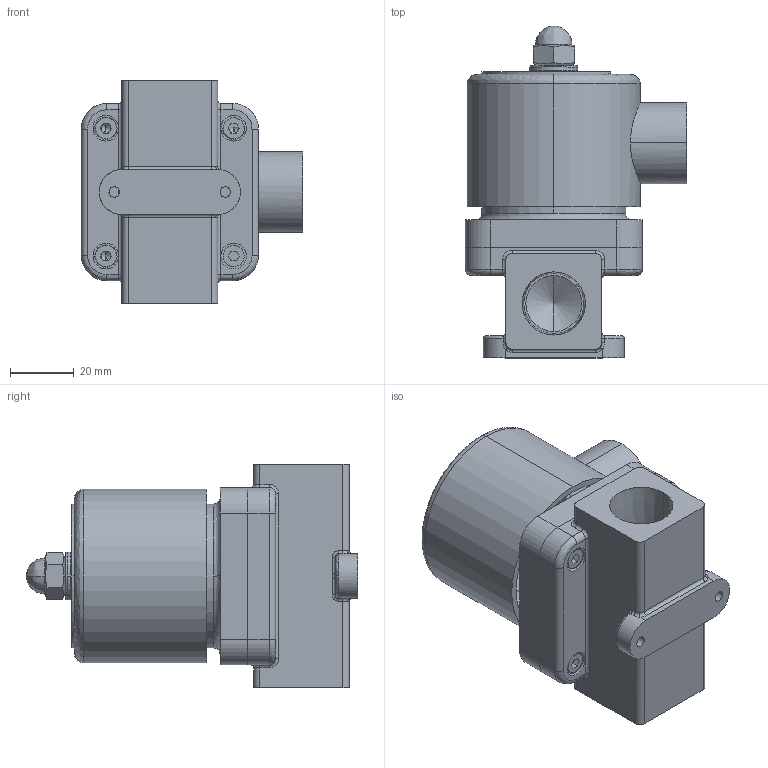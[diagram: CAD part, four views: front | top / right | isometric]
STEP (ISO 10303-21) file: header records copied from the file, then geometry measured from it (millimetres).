
FILE_DESCRIPTION (( 'STEP AP203' ), '1' );
FILE_NAME ('AS2202-04-#.STEP', '2016-02-04T06:20:47', ( 'Sam Lin' ), ( '' ), 'SwSTEP 2.0', 'SolidWorks 2013', '' );
FILE_SCHEMA (( 'CONFIG_CONTROL_DESIGN' ));
Length unit declared in the file: metre
Products named in the file (9): AS2202-5; AS2202-6; ISO 4762 M4 x 10; mark-AS2200; AS2202-04-#; AS2202-1; AS2202-2; AS2202-3; AS2202-4
Assembly tree (11 placements, depth 2):
  AS2202-04-#
    AS2202-1
    AS2202-2
    AS2202-3
    AS2202-4
    AS2202-5
    AS2202-6
    ISO 4762 M4 x 10  x4
    mark-AS2200
Bounding box: 69.4 x 103.95 x 70 mm (x, y, z)
Volume: 121168.2 mm3; surface area: 50924.5 mm2
Topology: 17 solids, 17 shells, 409 faces, 992 edges, 614 vertices
Faces by surface type: plane 177, cylinder 136, bspline 68, cone 26, torus 2
Entity records: 13731 total; most frequent: CARTESIAN_POINT 5189, ORIENTED_EDGE 1592, DIRECTION 1533, EDGE_CURVE 796, AXIS2_PLACEMENT_3D 565, VERTEX_POINT 505, VECTOR 403, LINE 403
